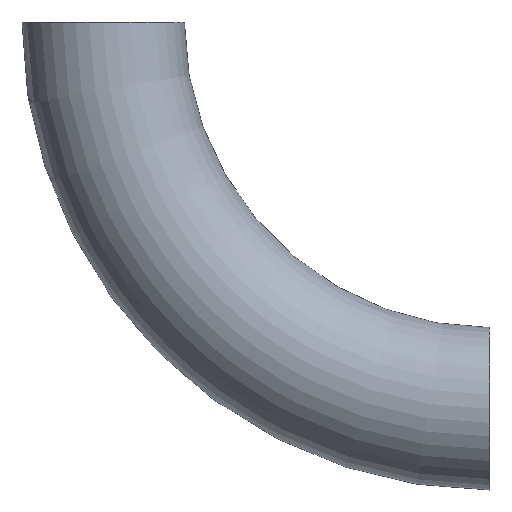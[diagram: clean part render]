
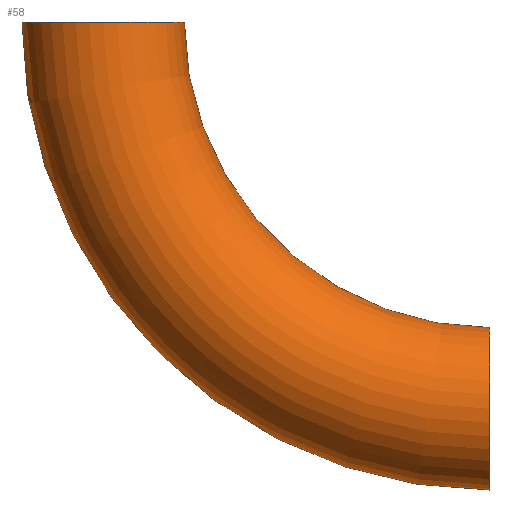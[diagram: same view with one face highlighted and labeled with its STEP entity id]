
A CAD part, front view. The second image highlights one B-rep face of the part: STEP entity #58.
In plain terms, the highlighted toroidal (fillet/blend) face has major radius 650 mm and minor radius 136.5 mm.
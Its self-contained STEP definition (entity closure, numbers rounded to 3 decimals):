
#3 = DIRECTION ( 'NONE',  ( 0., 0., 1. ) ) ;
#29 = CIRCLE ( 'NONE', #200, 136.5 ) ;
#34 = AXIS2_PLACEMENT_3D ( 'NONE', #177, #175, #174 ) ;
#39 = EDGE_CURVE ( 'NONE', #90, #219, #142, .T. ) ;
#41 = CARTESIAN_POINT ( 'NONE',  ( -513.5, 0., 0. ) ) ;
#47 = AXIS2_PLACEMENT_3D ( 'NONE', #53, #132, #225 ) ;
#49 = VERTEX_POINT ( 'NONE', #41 ) ;
#53 = CARTESIAN_POINT ( 'NONE',  ( 0., 0., 0. ) ) ;
#55 = CARTESIAN_POINT ( 'NONE',  ( 0., 0., 0. ) ) ;
#58 = ADVANCED_FACE ( 'NONE', ( #80 ), #138, .T. ) ;
#75 = DIRECTION ( 'NONE',  ( -1., 0., 0. ) ) ;
#80 = FACE_OUTER_BOUND ( 'NONE', #107, .T. ) ;
#85 = EDGE_CURVE ( 'NONE', #89, #49, #229, .T. ) ;
#87 = AXIS2_PLACEMENT_3D ( 'NONE', #99, #140, #230 ) ;
#89 = VERTEX_POINT ( 'NONE', #151 ) ;
#90 = VERTEX_POINT ( 'NONE', #249 ) ;
#93 = EDGE_CURVE ( 'NONE', #219, #49, #104, .T. ) ;
#94 = ORIENTED_EDGE ( 'NONE', *, *, #85, .T. ) ;
#99 = CARTESIAN_POINT ( 'NONE',  ( -650., 0., 0. ) ) ;
#104 = CIRCLE ( 'NONE', #87, 136.5 ) ;
#107 = EDGE_LOOP ( 'NONE', ( #116, #133, #94, #148 ) ) ;
#115 = AXIS2_PLACEMENT_3D ( 'NONE', #55, #190, #3 ) ;
#116 = ORIENTED_EDGE ( 'NONE', *, *, #39, .F. ) ;
#132 = DIRECTION ( 'NONE',  ( 0., 1., 0. ) ) ;
#133 = ORIENTED_EDGE ( 'NONE', *, *, #163, .T. ) ;
#136 = CARTESIAN_POINT ( 'NONE',  ( 0., 0., -650. ) ) ;
#138 = TOROIDAL_SURFACE ( 'NONE', #115, 650., 136.5 ) ;
#140 = DIRECTION ( 'NONE',  ( 0., 0., 1. ) ) ;
#142 = CIRCLE ( 'NONE', #47, 786.5 ) ;
#148 = ORIENTED_EDGE ( 'NONE', *, *, #93, .F. ) ;
#151 = CARTESIAN_POINT ( 'NONE',  ( 0., 0., -513.5 ) ) ;
#163 = EDGE_CURVE ( 'NONE', #90, #89, #29, .T. ) ;
#174 = DIRECTION ( 'NONE',  ( 0., 0., 1. ) ) ;
#175 = DIRECTION ( 'NONE',  ( 0., 1., 0. ) ) ;
#177 = CARTESIAN_POINT ( 'NONE',  ( 0., 0., 0. ) ) ;
#190 = DIRECTION ( 'NONE',  ( 0., 1., 0. ) ) ;
#200 = AXIS2_PLACEMENT_3D ( 'NONE', #136, #75, #251 ) ;
#210 = CARTESIAN_POINT ( 'NONE',  ( -786.5, 0., 0. ) ) ;
#219 = VERTEX_POINT ( 'NONE', #210 ) ;
#225 = DIRECTION ( 'NONE',  ( 0., 0., 1. ) ) ;
#229 = CIRCLE ( 'NONE', #34, 513.5 ) ;
#230 = DIRECTION ( 'NONE',  ( 1., 0., 0. ) ) ;
#249 = CARTESIAN_POINT ( 'NONE',  ( 0., 0., -786.5 ) ) ;
#251 = DIRECTION ( 'NONE',  ( 0., 0., 1. ) ) ;
